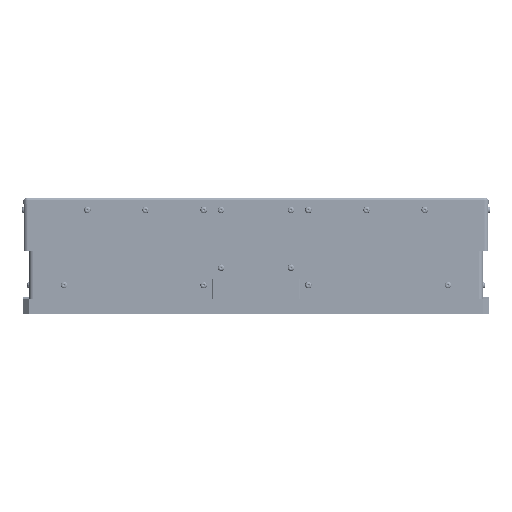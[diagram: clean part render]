
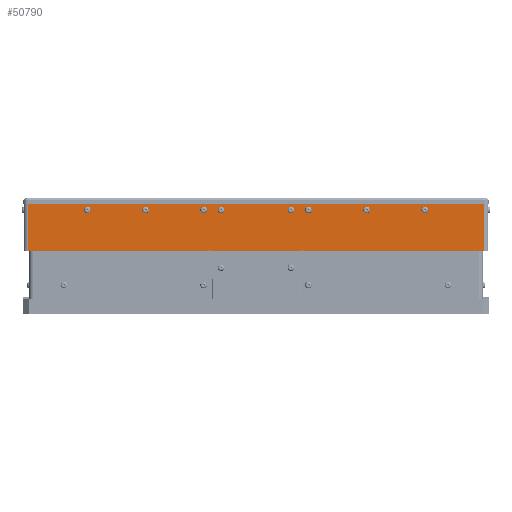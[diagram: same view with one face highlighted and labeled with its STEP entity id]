
A CAD part, left-side view. The second image highlights one B-rep face of the part: STEP entity #50790.
In plain terms, the highlighted planar face has unit normal (-1, 0, 0).
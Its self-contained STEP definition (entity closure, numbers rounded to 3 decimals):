
#1381=LINE($,#76048,#4526);
#2080=LINE($,#81430,#5225);
#2086=LINE($,#81443,#5231);
#2162=LINE($,#82003,#5307);
#2168=LINE($,#82019,#5313);
#2172=LINE($,#82033,#5317);
#4526=VECTOR($,#61273,392.);
#5225=VECTOR($,#64300,155.);
#5231=VECTOR($,#64316,40.);
#5307=VECTOR($,#64574,155.);
#5313=VECTOR($,#64592,40.);
#5317=VECTOR($,#64612,78.);
#9636=FACE_BOUND($,#16793,.T.);
#9637=FACE_BOUND($,#16794,.T.);
#9638=FACE_BOUND($,#16795,.T.);
#9639=FACE_BOUND($,#16796,.T.);
#9640=FACE_BOUND($,#16797,.T.);
#9641=FACE_BOUND($,#16798,.T.);
#9642=FACE_BOUND($,#16799,.T.);
#9643=FACE_BOUND($,#16800,.T.);
#9644=FACE_BOUND($,#16801,.T.);
#16793=EDGE_LOOP($,(#38999));
#16794=EDGE_LOOP($,(#39000));
#16795=EDGE_LOOP($,(#39001));
#16796=EDGE_LOOP($,(#39002));
#16797=EDGE_LOOP($,(#39003));
#16798=EDGE_LOOP($,(#39004));
#16799=EDGE_LOOP($,(#39005));
#16800=EDGE_LOOP($,(#39006));
#16801=EDGE_LOOP($,(#39007,#39008,#39009,#39010,#39011,#39012,#39013,#39014,
#39015,#39016));
#21184=CIRCLE($,#55151,2.85);
#21189=CIRCLE($,#55165,2.85);
#21194=CIRCLE($,#55179,2.85);
#21246=CIRCLE($,#55330,1.);
#21254=CIRCLE($,#55347,2.85);
#21259=CIRCLE($,#55361,2.85);
#21264=CIRCLE($,#55375,2.85);
#21269=CIRCLE($,#55389,2.85);
#21274=CIRCLE($,#55403,2.85);
#21280=CIRCLE($,#55426,1.);
#21285=CIRCLE($,#55440,1.);
#21286=CIRCLE($,#55443,1.);
#23369=VERTEX_POINT($,#76045);
#23370=VERTEX_POINT($,#76047);
#24287=VERTEX_POINT($,#80337);
#24304=VERTEX_POINT($,#80428);
#24321=VERTEX_POINT($,#80519);
#24493=VERTEX_POINT($,#81423);
#24494=VERTEX_POINT($,#81424);
#24495=VERTEX_POINT($,#81429);
#24508=VERTEX_POINT($,#81500);
#24525=VERTEX_POINT($,#81591);
#24542=VERTEX_POINT($,#81682);
#24559=VERTEX_POINT($,#81773);
#24576=VERTEX_POINT($,#81864);
#24600=VERTEX_POINT($,#81995);
#24601=VERTEX_POINT($,#81996);
#24602=VERTEX_POINT($,#82001);
#24607=VERTEX_POINT($,#82027);
#24608=VERTEX_POINT($,#82031);
#28409=EDGE_CURVE($,#23369,#23370,#1381,.T.);
#29613=EDGE_CURVE($,#24287,#24287,#21184,.T.);
#29637=EDGE_CURVE($,#24304,#24304,#21189,.T.);
#29661=EDGE_CURVE($,#24321,#24321,#21194,.T.);
#29913=EDGE_CURVE($,#24493,#24494,#21246,.T.);
#29916=EDGE_CURVE($,#24494,#24495,#2080,.T.);
#29924=EDGE_CURVE($,#23369,#24495,#2086,.T.);
#29937=EDGE_CURVE($,#24508,#24508,#21254,.T.);
#29961=EDGE_CURVE($,#24525,#24525,#21259,.T.);
#29985=EDGE_CURVE($,#24542,#24542,#21264,.T.);
#30009=EDGE_CURVE($,#24559,#24559,#21269,.T.);
#30033=EDGE_CURVE($,#24576,#24576,#21274,.T.);
#30070=EDGE_CURVE($,#24600,#24601,#21280,.T.);
#30074=EDGE_CURVE($,#24602,#24600,#2162,.T.);
#30082=EDGE_CURVE($,#24602,#23370,#2168,.T.);
#30087=EDGE_CURVE($,#24607,#24493,#21285,.T.);
#30089=EDGE_CURVE($,#24608,#24607,#2172,.T.);
#30090=EDGE_CURVE($,#24601,#24608,#21286,.T.);
#38999=ORIENTED_EDGE($,*,*,#29613,.T.);
#39000=ORIENTED_EDGE($,*,*,#29637,.T.);
#39001=ORIENTED_EDGE($,*,*,#29661,.T.);
#39002=ORIENTED_EDGE($,*,*,#29985,.T.);
#39003=ORIENTED_EDGE($,*,*,#29961,.T.);
#39004=ORIENTED_EDGE($,*,*,#29937,.T.);
#39005=ORIENTED_EDGE($,*,*,#30009,.T.);
#39006=ORIENTED_EDGE($,*,*,#30033,.T.);
#39007=ORIENTED_EDGE($,*,*,#30087,.F.);
#39008=ORIENTED_EDGE($,*,*,#30089,.F.);
#39009=ORIENTED_EDGE($,*,*,#30090,.F.);
#39010=ORIENTED_EDGE($,*,*,#30070,.F.);
#39011=ORIENTED_EDGE($,*,*,#30074,.F.);
#39012=ORIENTED_EDGE($,*,*,#30082,.T.);
#39013=ORIENTED_EDGE($,*,*,#28409,.F.);
#39014=ORIENTED_EDGE($,*,*,#29924,.T.);
#39015=ORIENTED_EDGE($,*,*,#29916,.F.);
#39016=ORIENTED_EDGE($,*,*,#29913,.F.);
#48207=PLANE($,#55444);
#50790=ADVANCED_FACE($,(#9636,#9637,#9638,#9639,#9640,#9641,#9642,#9643,
#9644),#48207,.F.);
#55151=AXIS2_PLACEMENT_3D($,#80338,#63781,#63782);
#55165=AXIS2_PLACEMENT_3D($,#80429,#63821,#63822);
#55179=AXIS2_PLACEMENT_3D($,#80520,#63861,#63862);
#55330=AXIS2_PLACEMENT_3D($,#81425,#64294,#64295);
#55347=AXIS2_PLACEMENT_3D($,#81501,#64343,#64344);
#55361=AXIS2_PLACEMENT_3D($,#81592,#64383,#64384);
#55375=AXIS2_PLACEMENT_3D($,#81683,#64423,#64424);
#55389=AXIS2_PLACEMENT_3D($,#81774,#64463,#64464);
#55403=AXIS2_PLACEMENT_3D($,#81865,#64503,#64504);
#55426=AXIS2_PLACEMENT_3D($,#81997,#64567,#64568);
#55440=AXIS2_PLACEMENT_3D($,#82029,#64607,#64608);
#55443=AXIS2_PLACEMENT_3D($,#82035,#64615,#64616);
#55444=AXIS2_PLACEMENT_3D($,#82036,#64617,#64618);
#61273=DIRECTION($,(0.,-1.,0.));
#63781=DIRECTION('center_axis',(1.,0.,0.));
#63782=DIRECTION('ref_axis',(0.,-0.866,
0.5));
#63821=DIRECTION('center_axis',(1.,0.,0.));
#63822=DIRECTION('ref_axis',(0.,0.,
1.));
#63861=DIRECTION('center_axis',(1.,0.,0.));
#63862=DIRECTION('ref_axis',(0.,0.,
1.));
#64294=DIRECTION('center_axis',(1.,0.,0.));
#64295=DIRECTION('ref_axis',(0.,-0.707,
-0.707));
#64300=DIRECTION($,(0.,1.,0.));
#64316=DIRECTION($,(0.,0.,-1.));
#64343=DIRECTION('center_axis',(1.,0.,0.));
#64344=DIRECTION('ref_axis',(0.,0.,
-1.));
#64383=DIRECTION('center_axis',(1.,0.,0.));
#64384=DIRECTION('ref_axis',(0.,0.,
-1.));
#64423=DIRECTION('center_axis',(1.,0.,0.));
#64424=DIRECTION('ref_axis',(0.,0.866,0.5));
#64463=DIRECTION('center_axis',(1.,0.,0.));
#64464=DIRECTION('ref_axis',(0.,-1.,0.));
#64503=DIRECTION('center_axis',(1.,0.,0.));
#64504=DIRECTION('ref_axis',(0.,0.5,0.866));
#64567=DIRECTION('center_axis',(1.,0.,0.));
#64568=DIRECTION('ref_axis',(0.,0.707,-0.707));
#64574=DIRECTION($,(0.,1.,0.));
#64592=DIRECTION($,(0.,0.,1.));
#64607=DIRECTION('center_axis',(1.,0.,0.));
#64608=DIRECTION('ref_axis',(0.,0.707,-0.707));
#64612=DIRECTION($,(0.,1.,0.));
#64615=DIRECTION('center_axis',(1.,0.,0.));
#64616=DIRECTION('ref_axis',(0.,-0.707,-0.707));
#64617=DIRECTION('center_axis',(1.,0.,0.));
#64618=DIRECTION('ref_axis',(0.,1.,0.));
#76045=CARTESIAN_POINT('',(479.961,437.197,498.306));
#76047=CARTESIAN_POINT('',(479.961,45.197,498.306));
#76048=CARTESIAN_POINT($,(479.961,281.197,498.306));
#80337=CARTESIAN_POINT('',(479.961,193.729,494.731));
#80338=CARTESIAN_POINT('Origin',(479.961,196.197,493.306));
#80428=CARTESIAN_POINT('',(479.961,146.197,496.156));
#80429=CARTESIAN_POINT('Origin',(479.961,146.197,493.306));
#80519=CARTESIAN_POINT('',(479.961,96.197,496.156));
#80520=CARTESIAN_POINT('Origin',(479.961,96.197,493.306));
#81423=CARTESIAN_POINT('',(479.961,281.197,459.306));
#81424=CARTESIAN_POINT('',(479.961,282.197,458.306));
#81425=CARTESIAN_POINT('Origin',(479.961,282.197,459.306));
#81429=CARTESIAN_POINT('',(479.961,437.197,458.306));
#81430=CARTESIAN_POINT($,(479.961,440.697,458.306));
#81443=CARTESIAN_POINT($,(479.961,437.197,488.306));
#81500=CARTESIAN_POINT('',(479.961,336.197,490.456));
#81501=CARTESIAN_POINT('Origin',(479.961,336.197,493.306));
#81591=CARTESIAN_POINT('',(479.961,286.197,490.456));
#81592=CARTESIAN_POINT('Origin',(479.961,286.197,493.306));
#81682=CARTESIAN_POINT('',(479.961,388.665,494.731));
#81683=CARTESIAN_POINT('Origin',(479.961,386.197,493.306));
#81773=CARTESIAN_POINT('',(479.961,268.347,493.306));
#81774=CARTESIAN_POINT('Origin',(479.961,271.197,493.306));
#81864=CARTESIAN_POINT('',(479.961,212.622,495.774));
#81865=CARTESIAN_POINT('Origin',(479.961,211.197,493.306));
#81995=CARTESIAN_POINT('',(479.961,200.197,458.306));
#81996=CARTESIAN_POINT('',(479.961,201.197,459.306));
#81997=CARTESIAN_POINT('Origin',(479.961,200.197,459.306));
#82001=CARTESIAN_POINT('',(479.961,45.197,458.306));
#82003=CARTESIAN_POINT($,(479.961,45.197,458.306));
#82019=CARTESIAN_POINT($,(479.961,45.197,478.306));
#82027=CARTESIAN_POINT('',(479.961,280.197,458.306));
#82029=CARTESIAN_POINT('Origin',(479.961,280.197,459.306));
#82031=CARTESIAN_POINT('',(479.961,202.197,458.306));
#82033=CARTESIAN_POINT($,(479.961,201.197,458.306));
#82035=CARTESIAN_POINT('Origin',(479.961,202.197,459.306));
#82036=CARTESIAN_POINT('Origin',(479.961,241.197,478.306));
